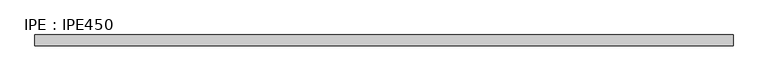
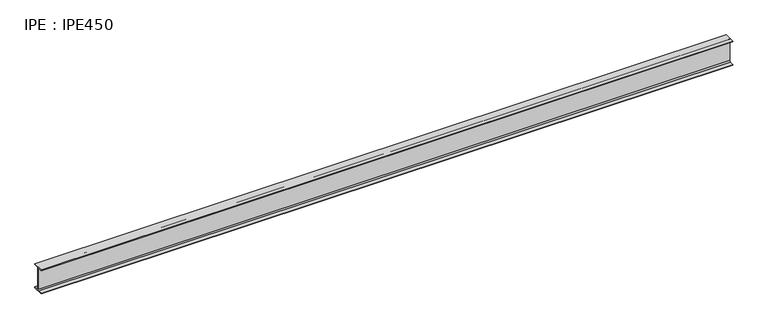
"""IFC4 building model written with IfcOpenShell, lengths in millimetres: beam geometry, IPE : IPE450."""

from ifc_helpers import new_model, si_unit, point, frame, frame_2d, origin, place, context, project, spatial, polyline, circle_curve, trimmed, segment, composite_curve, outline, extrude, source, transform, mapped, element, save


def ipe_ipe450_d757c6d6(model_context):
    return source(origin(), model_context, "Body", "SweptSolid", [
        extrude(outline(composite_curve([segment(polyline([(95.0, -210.4), (95.0, -225.0), (-95.0, -225.0), (-95.0, -210.4), (-25.7, -210.4)]), True, "CONTINUOUS"), segment(trimmed(circle_curve(frame_2d((-25.7, -189.4)), 21.0), [point((-25.7, -210.4))], [point((-4.7, -189.4))], True, "CARTESIAN"), True, "CONTINUOUS"), segment(polyline([(-4.7, -189.4), (-4.7, 189.4)]), True, "CONTINUOUS"), segment(trimmed(circle_curve(frame_2d((-25.7, 189.4)), 21.0), [point((-4.7, 189.4))], [point((-25.7, 210.4))], True, "CARTESIAN"), True, "CONTINUOUS"), segment(polyline([(-25.7, 210.4), (-95.0, 210.4), (-95.0, 225.0), (95.0, 225.0), (95.0, 210.4), (25.7, 210.4)]), True, "CONTINUOUS"), segment(trimmed(circle_curve(frame_2d((25.7, 189.4)), 21.0), [point((25.7, 210.4))], [point((4.7, 189.4))], True, "CARTESIAN"), True, "CONTINUOUS"), segment(polyline([(4.7, 189.4), (4.7, -189.4)]), True, "CONTINUOUS"), segment(trimmed(circle_curve(frame_2d((25.7, -189.4)), 21.0), [point((4.7, -189.4))], [point((25.7, -210.4))], True, "CARTESIAN"), True, "CONTINUOUS"), segment(polyline([(25.7, -210.4), (95.0, -210.4)]), True, "CONTINUOUS")], self_intersect=False)), frame((-6076.65, 0.0, 0.0), z_axis=(1.0, 0.0, 0.0), x_axis=(0.0, 1.0, 0.0)), (0.0, 0.0, 1.0), 12153.3),
    ])


if __name__ == "__main__":
    model = new_model("IFC4")
    model_context = context("Model", 3, world=origin())
    ifc_project = project(units=[si_unit("LENGTHUNIT", "METRE", prefix="MILLI")], contexts=[model_context])
    site = spatial("IfcSite", under=ifc_project)
    building = spatial("IfcBuilding", under=site)
    placement = place(None, origin())
    ipe_ipe450_shape = ipe_ipe450_d757c6d6(model_context)
    element("IfcBeam", 1, ObjectType="IPE : IPE450", at=placement, inside=building, context=model_context, shape_type="MappedRepresentation", body=[
        mapped(ipe_ipe450_shape, transform((0.0, 0.0, 0.0), x_axis=(1.0, 0.0, 0.0), y_axis=(0.0, 1.0, 0.0), z_axis=(0.0, 0.0, 1.0))),
    ])
    save(model, "model.ifc")
